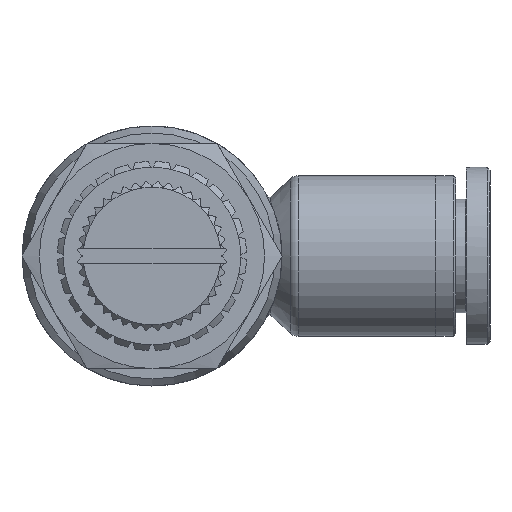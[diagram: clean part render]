
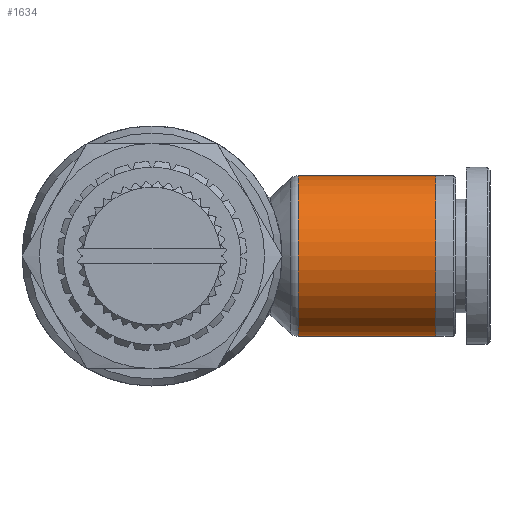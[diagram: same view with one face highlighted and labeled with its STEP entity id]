
A CAD part, left-side view. The second image highlights one B-rep face of the part: STEP entity #1634.
In plain terms, the highlighted cylindrical face has radius 6.8 mm (diameter 13.6 mm), a full revolution.
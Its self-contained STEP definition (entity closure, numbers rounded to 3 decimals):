
#1592=CARTESIAN_POINT('',(-12.384,6.8,0.0));
#1593=VERTEX_POINT('',#1592);
#1594=CARTESIAN_POINT('',(-12.384,0.,0.0));
#1595=DIRECTION('',(1.0,0.0,0.0));
#1596=DIRECTION('',(0.0,-1.0,0.0));
#1597=AXIS2_PLACEMENT_3D('',#1594,#1595,#1596);
#1598=CIRCLE('',#1597,6.8);
#1599=EDGE_CURVE('',#1593,#1593,#1598,.T.);
#1615=CARTESIAN_POINT('',(-18.,0.,0.0));
#1616=DIRECTION('',(1.0,0.,0.0));
#1617=DIRECTION('',(0.0,1.0,0.0));
#1618=AXIS2_PLACEMENT_3D('',#1615,#1616,#1617);
#1619=CYLINDRICAL_SURFACE('',#1618,6.8);
#1620=CARTESIAN_POINT('',(-24.,6.8,0.0));
#1621=VERTEX_POINT('',#1620);
#1622=CARTESIAN_POINT('',(-24.,0.,0.0));
#1623=DIRECTION('',(1.0,0.0,0.0));
#1624=DIRECTION('',(0.0,1.0,0.0));
#1625=AXIS2_PLACEMENT_3D('',#1622,#1623,#1624);
#1626=CIRCLE('',#1625,6.8);
#1627=EDGE_CURVE('',#1621,#1621,#1626,.T.);
#1628=ORIENTED_EDGE('',*,*,#1627,.T.);
#1629=EDGE_LOOP('',(#1628));
#1630=FACE_OUTER_BOUND('',#1629,.T.);
#1631=ORIENTED_EDGE('',*,*,#1599,.F.);
#1632=EDGE_LOOP('',(#1631));
#1633=FACE_BOUND('',#1632,.T.);
#1634=ADVANCED_FACE('',(#1630,#1633),#1619,.T.);
